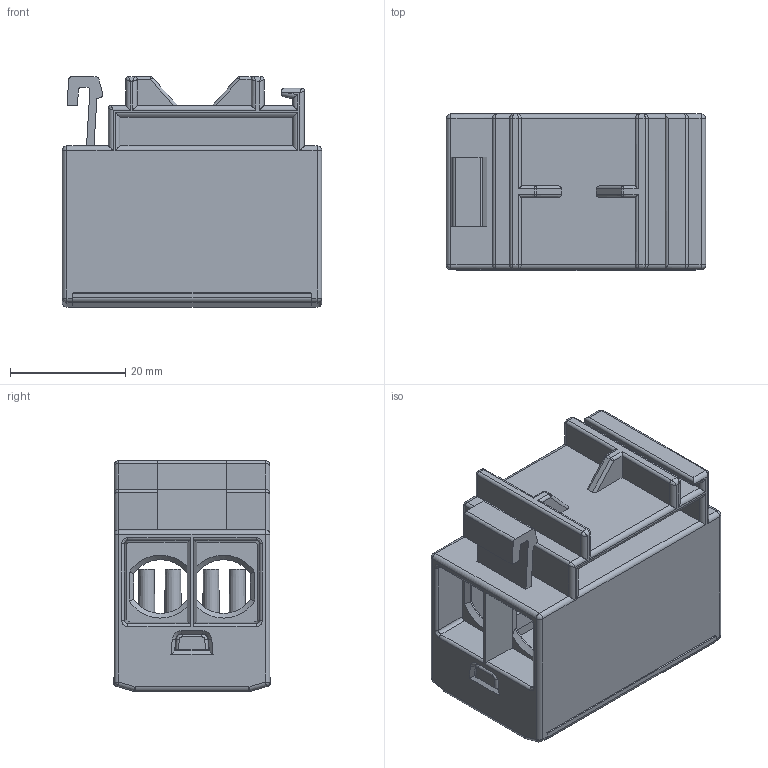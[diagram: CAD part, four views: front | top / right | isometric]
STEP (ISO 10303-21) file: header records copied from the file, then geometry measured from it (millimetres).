
FILE_DESCRIPTION((''),'2;1');
FILE_NAME('YITAIO_ASM','2019-07-30T',('Administrator'),(''),'PRO/ENGINEER BY PARAMETRIC TECHNOLOGY CORPORATION, 2015240','PRO/ENGINEER BY PARAMETRIC TECHNOLOGY CORPORATION, 2015240','');
FILE_SCHEMA(('CONFIG_CONTROL_DESIGN'));
Length unit declared in the file: millimetre
Products named in the file (3): DIZUO; GAIZI; YITAIO_ASM
Assembly tree (2 placements, depth 2):
  YITAIO_ASM
    DIZUO
    GAIZI
Bounding box: 45 x 27.41 x 40 mm (x, y, z)
Volume: 13781.3 mm3; surface area: 17628.9 mm2
Topology: 2 solids, 2 shells, 451 faces, 1148 edges, 706 vertices
Faces by surface type: plane 209, cylinder 170, bspline 26, cone 20, sphere 16, torus 10
Entity records: 14862 total; most frequent: CARTESIAN_POINT 4115, ORIENTED_EDGE 2296, DIRECTION 2114, EDGE_CURVE 1148, VECTOR 740, LINE 740, VERTEX_POINT 706, AXIS2_PLACEMENT_3D 687
